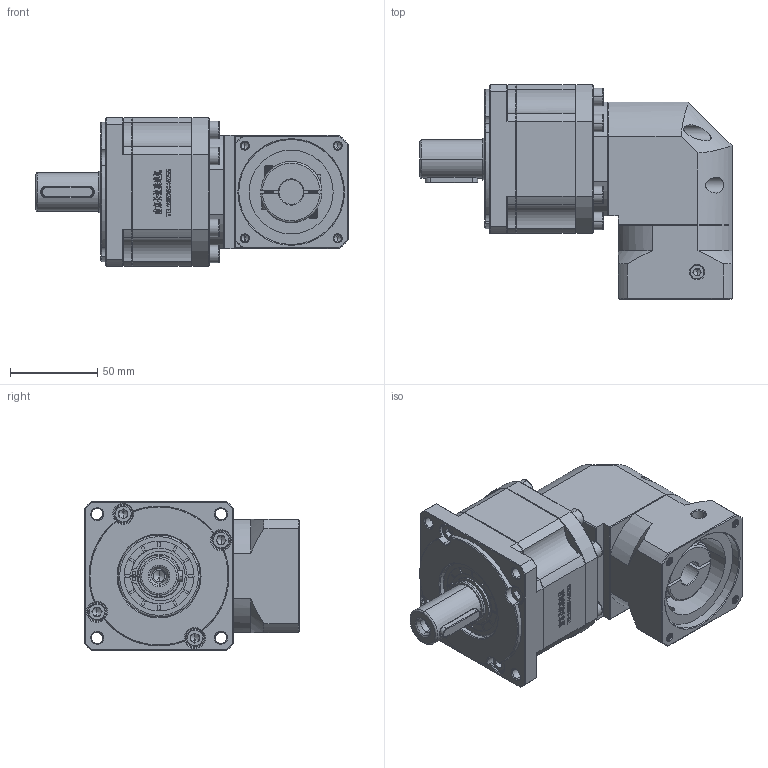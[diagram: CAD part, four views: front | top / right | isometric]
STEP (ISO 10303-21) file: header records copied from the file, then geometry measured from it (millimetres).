
FILE_DESCRIPTION (( 'STEP AP214' ), '1' );
FILE_NAME ('ZBR90-D22-L2-14-60-75-M5.step', '2022-05-07T15:20:13', ( '' ), ( 'Microsoft' ), 'SwSTEP 2.0', 'SolidWorks 2016', '' );
FILE_SCHEMA (( 'AUTOMOTIVE_DESIGN' ));
Length unit declared in the file: millimetre
Products named in the file (1): ZBR90-D22-L2-14-60-75-M5
Bounding box: 178.5 x 122.7 x 85 mm (x, y, z)
Volume: 816645 mm3; surface area: 100999.4 mm2
Topology: 5 solids, 5 shells, 3039 faces, 8162 edges, 5267 vertices
Faces by surface type: plane 1598, bspline 608, cylinder 445, cone 368, torus 20
Entity records: 163537 total; most frequent: CARTESIAN_POINT 58586, ORIENTED_EDGE 16232, DIRECTION 12527, EDGE_CURVE 8116, LINE 5349, VECTOR 5349, VERTEX_POINT 5267, AXIS2_PLACEMENT_3D 3589
